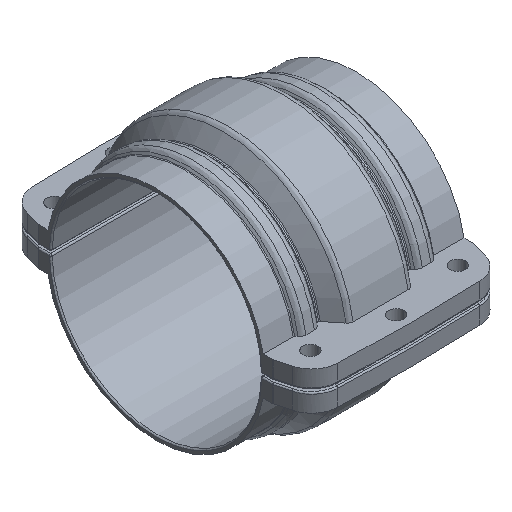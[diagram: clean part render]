
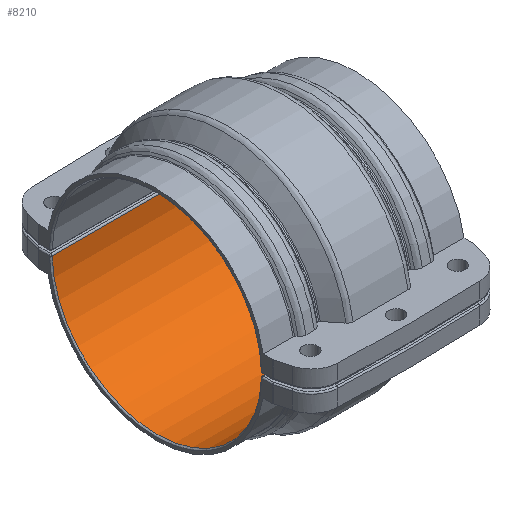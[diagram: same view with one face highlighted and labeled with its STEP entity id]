
A CAD part, isometric view. The second image highlights one B-rep face of the part: STEP entity #8210.
In plain terms, the highlighted cylindrical face has radius 76.75 mm (diameter 153.5 mm), a partial arc.
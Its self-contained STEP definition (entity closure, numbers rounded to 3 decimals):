
#6099=CARTESIAN_POINT('',(-72.493,0.,0.));
#6100=DIRECTION('',(-1.,0.,0.));
#6101=DIRECTION('',(0.,-1.,0.026));
#6102=AXIS2_PLACEMENT_3D('',#6099,#6100,#6101);
#6107=CARTESIAN_POINT('',(-72.493,0.,0.));
#6108=DIRECTION('',(-1.,0.,0.));
#6109=DIRECTION('',(0.,0.,1.));
#6110=AXIS2_PLACEMENT_3D('',#6107,#6108,#6109);
#6115=DIRECTION('',(-1.,0.,0.));
#6116=VECTOR('',#6115,144.986);
#6117=CARTESIAN_POINT('',(72.493,76.724,1.974));
#6118=LINE('',#6117,#6116);
#6122=DIRECTION('',(1.,0.,0.));
#6123=VECTOR('',#6122,144.986);
#6124=CARTESIAN_POINT('',(-72.493,-76.724,
1.974));
#6125=LINE('',#6124,#6123);
#6129=CARTESIAN_POINT('',(72.493,0.,0.));
#6130=DIRECTION('',(1.,0.,0.));
#6131=DIRECTION('',(0.,1.,0.026));
#6132=AXIS2_PLACEMENT_3D('',#6129,#6130,#6131);
#6137=CARTESIAN_POINT('',(72.493,0.,0.));
#6138=DIRECTION('',(1.,0.,0.));
#6139=DIRECTION('',(0.,0.,1.));
#6140=AXIS2_PLACEMENT_3D('',#6137,#6138,#6139);
#7258=CARTESIAN_POINT('',(72.493,76.725,1.974));
#7259=VERTEX_POINT('',#7258);
#7260=CARTESIAN_POINT('',(-72.493,76.724,1.974));
#7261=VERTEX_POINT('',#7260);
#7262=CARTESIAN_POINT('',(72.493,0.,76.749));
#7263=VERTEX_POINT('',#7262);
#7264=CARTESIAN_POINT('',(72.493,-76.724,1.974));
#7265=VERTEX_POINT('',#7264);
#7266=CARTESIAN_POINT('',(-72.493,-76.724,
1.974));
#7267=CARTESIAN_POINT('',(-72.493,0.,76.749));
#7268=VERTEX_POINT('',#7266);
#7269=VERTEX_POINT('',#7267);
#8193=CARTESIAN_POINT('',(120.837,0.,0.));
#8194=DIRECTION('',(-1.,0.,0.));
#8195=DIRECTION('',(0.,0.,1.));
#8196=AXIS2_PLACEMENT_3D('',#8193,#8194,#8195);
#8197=CYLINDRICAL_SURFACE('',#8196,76.75);
#8199=ORIENTED_EDGE('',*,*,#8198,.F.);
#8201=ORIENTED_EDGE('',*,*,#8200,.F.);
#8203=ORIENTED_EDGE('',*,*,#8202,.T.);
#8204=ORIENTED_EDGE('',*,*,#8184,.F.);
#8205=ORIENTED_EDGE('',*,*,#8182,.F.);
#8207=ORIENTED_EDGE('',*,*,#8206,.T.);
#8208=EDGE_LOOP('',(#8199,#8201,#8203,#8204,#8205,#8207));
#8209=FACE_OUTER_BOUND('',#8208,.F.);
#6103=CIRCLE('',#6102,76.749);
#6111=CIRCLE('',#6110,76.749);
#6133=CIRCLE('',#6132,76.749);
#6141=CIRCLE('',#6140,76.749);
#8182=EDGE_CURVE('',#7268,#7269,#6103,.T.);
#8184=EDGE_CURVE('',#7269,#7261,#6111,.T.);
#8198=EDGE_CURVE('',#7263,#7265,#6141,.T.);
#8200=EDGE_CURVE('',#7259,#7263,#6133,.T.);
#8202=EDGE_CURVE('',#7259,#7261,#6118,.T.);
#8206=EDGE_CURVE('',#7268,#7265,#6125,.T.);
#8210=ADVANCED_FACE('',(#8209),#8197,.F.);
